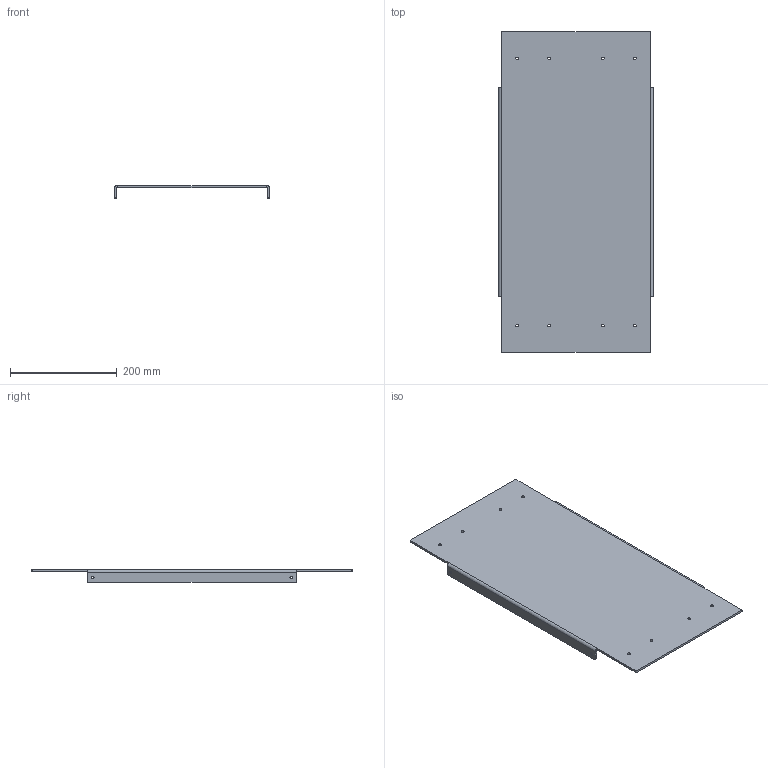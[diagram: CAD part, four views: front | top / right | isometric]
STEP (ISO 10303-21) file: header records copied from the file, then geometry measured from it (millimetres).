
FILE_DESCRIPTION(('HOOPS Exchange Step'),'2;1');
FILE_NAME('/private/var/mobile/Containers/Data/Application/E4481369-A8C6-45C6-A958-B1853E49479D/tmp/export/temp_export','2021-04-12T20:58:51+00:00',('mobile'),('Shapr3D Limited'),'HOOPS Exchange 2020.2','Shapr3D','Authorized');
FILE_SCHEMA( ('AP203_CONFIGURATION_CONTROLLED_3D_DESIGN_OF_MECHANICAL_PARTS_AND_ASSEMBLIES_MIM_LF') );
Length unit declared in the file: millimetre
Products named in the file (2): 0; /private/var/mobile/Containers/Data/Application/E4481369-A8C6-45C6-A958-B1853E49479D/tmp/3EB4D4B3-C4B2-4216-AFB0-65C95422C14E.tmp
Assembly tree (1 placements, depth 2):
  /private/var/mobile/Containers/Data/Application/E4481369-A8C6-45C6-A958-B1853E49479D/tmp/3EB4D4B3-C4B2-4216-AFB0-65C95422C14E.tmp
    0
Bounding box: 290 x 600 x 24 mm (x, y, z)
Volume: 745335.8 mm3; surface area: 380857.7 mm2
Topology: 1 solids, 1 shells, 42 faces, 128 edges, 88 vertices
Faces by surface type: cylinder 24, plane 18
Full cylindrical faces by diameter (mm): 5.2 x12
Entity records: 1575 total; most frequent: DIRECTION 282, CARTESIAN_POINT 261, ORIENTED_EDGE 256, EDGE_CURVE 128, AXIS2_PLACEMENT_3D 109, VERTEX_POINT 88, EDGE_LOOP 66, FACE_BOUND 66
